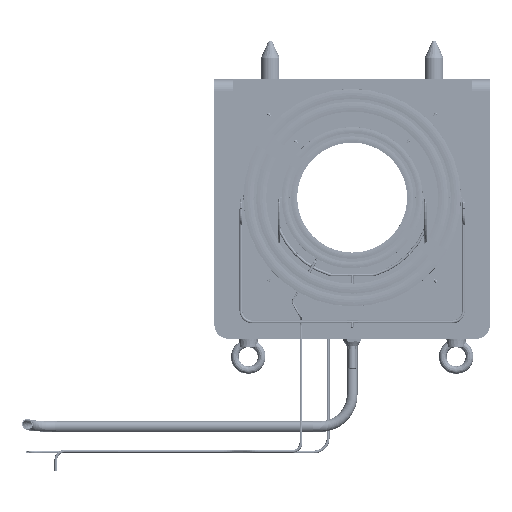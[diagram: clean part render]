
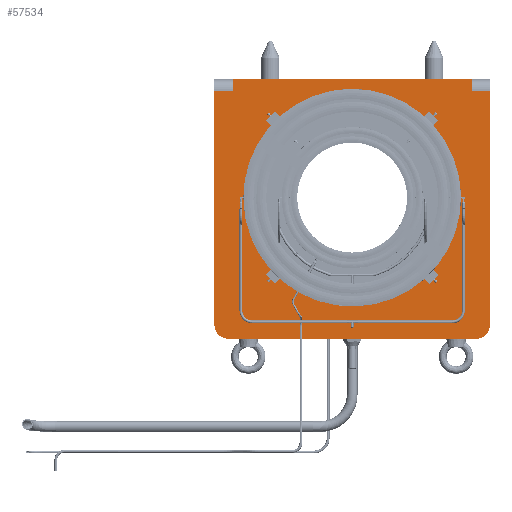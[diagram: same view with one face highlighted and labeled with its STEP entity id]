
A CAD part, front view. The second image highlights one B-rep face of the part: STEP entity #57534.
In plain terms, the highlighted planar face has unit normal (0, -1, 0) as drawn and (0, 0, 1) by its records, which use the part's own axes.
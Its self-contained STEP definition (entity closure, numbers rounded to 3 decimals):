
#1348=FACE_BOUND('',#15951,.T.);
#1711=PLANE('',#66789);
#8918=CIRCLE('',#66790,50.);
#8919=CIRCLE('',#66791,50.);
#8920=CIRCLE('',#66792,385.);
#12298=FACE_OUTER_BOUND('',#15950,.T.);
#15950=EDGE_LOOP('',(#53202,#53203,#53204,#53205,#53206,#53207,#53208,#53209,
#53210,#53211));
#15951=EDGE_LOOP('',(#53212));
#19274=LINE('',#107724,#22481);
#19276=LINE('',#107730,#22483);
#19280=LINE('',#107742,#22487);
#19281=LINE('',#107746,#22488);
#19282=LINE('',#107750,#22489);
#19283=LINE('',#107752,#22490);
#19284=LINE('',#107754,#22491);
#19285=LINE('',#107755,#22492);
#22481=VECTOR('',#86661,10.);
#22483=VECTOR('',#86667,10.);
#22487=VECTOR('',#86681,10.);
#22488=VECTOR('',#86684,10.);
#22489=VECTOR('',#86687,10.);
#22490=VECTOR('',#86688,10.);
#22491=VECTOR('',#86689,10.);
#22492=VECTOR('',#86690,10.);
#28092=VERTEX_POINT('',#107720);
#28094=VERTEX_POINT('',#107723);
#28096=VERTEX_POINT('',#107729);
#28099=VERTEX_POINT('',#107741);
#28100=VERTEX_POINT('',#107743);
#28101=VERTEX_POINT('',#107745);
#28102=VERTEX_POINT('',#107747);
#28103=VERTEX_POINT('',#107749);
#28104=VERTEX_POINT('',#107751);
#28105=VERTEX_POINT('',#107753);
#28106=VERTEX_POINT('',#107756);
#36505=EDGE_CURVE('',#28092,#28094,#19274,.T.);
#36508=EDGE_CURVE('',#28096,#28094,#19276,.T.);
#36514=EDGE_CURVE('',#28092,#28099,#19280,.F.);
#36515=EDGE_CURVE('',#28100,#28099,#8918,.T.);
#36516=EDGE_CURVE('',#28100,#28101,#19281,.T.);
#36517=EDGE_CURVE('',#28102,#28101,#8919,.T.);
#36518=EDGE_CURVE('',#28102,#28103,#19282,.T.);
#36519=EDGE_CURVE('',#28104,#28103,#19283,.T.);
#36520=EDGE_CURVE('',#28104,#28105,#19284,.T.);
#36521=EDGE_CURVE('',#28105,#28096,#19285,.T.);
#36522=EDGE_CURVE('',#28106,#28106,#8920,.T.);
#53202=ORIENTED_EDGE('',*,*,#36508,.T.);
#53203=ORIENTED_EDGE('',*,*,#36505,.F.);
#53204=ORIENTED_EDGE('',*,*,#36514,.T.);
#53205=ORIENTED_EDGE('',*,*,#36515,.F.);
#53206=ORIENTED_EDGE('',*,*,#36516,.T.);
#53207=ORIENTED_EDGE('',*,*,#36517,.F.);
#53208=ORIENTED_EDGE('',*,*,#36518,.T.);
#53209=ORIENTED_EDGE('',*,*,#36519,.F.);
#53210=ORIENTED_EDGE('',*,*,#36520,.T.);
#53211=ORIENTED_EDGE('',*,*,#36521,.T.);
#53212=ORIENTED_EDGE('',*,*,#36522,.T.);
#57534=ADVANCED_FACE('',(#12298,#1348),#1711,.T.);
#66789=AXIS2_PLACEMENT_3D('',#107740,#86679,#86680);
#66790=AXIS2_PLACEMENT_3D('',#107744,#86682,#86683);
#66791=AXIS2_PLACEMENT_3D('',#107748,#86685,#86686);
#66792=AXIS2_PLACEMENT_3D('',#107757,#86691,#86692);
#86661=DIRECTION('',(-1.,0.,0.));
#86667=DIRECTION('',(0.,1.,0.));
#86679=DIRECTION('center_axis',(0.,0.,1.));
#86680=DIRECTION('ref_axis',(1.,0.,0.));
#86681=DIRECTION('',(0.,-1.,0.));
#86682=DIRECTION('center_axis',(0.,0.,-1.));
#86683=DIRECTION('ref_axis',(0.707,0.707,0.));
#86684=DIRECTION('',(-1.,0.,0.));
#86685=DIRECTION('center_axis',(0.,0.,-1.));
#86686=DIRECTION('ref_axis',(-0.707,0.707,0.));
#86687=DIRECTION('',(0.,-1.,0.));
#86688=DIRECTION('',(-1.,0.,0.));
#86689=DIRECTION('',(0.,-1.,0.));
#86690=DIRECTION('',(1.,0.,0.));
#86691=DIRECTION('center_axis',(0.,0.,-1.));
#86692=DIRECTION('ref_axis',(-1.,0.,0.));
#107720=CARTESIAN_POINT('',(488.,-378.,50.));
#107723=CARTESIAN_POINT('',(423.,-378.,50.));
#107724=CARTESIAN_POINT('',(488.,-378.,50.));
#107729=CARTESIAN_POINT('',(423.,-420.,50.));
#107730=CARTESIAN_POINT('',(423.,-402.,50.));
#107740=CARTESIAN_POINT('Origin',(490.5,-405.,50.));
#107741=CARTESIAN_POINT('',(488.,450.,50.));
#107742=CARTESIAN_POINT('',(488.,-412.5,50.));
#107743=CARTESIAN_POINT('',(438.,500.,50.));
#107744=CARTESIAN_POINT('Origin',(438.,450.,50.));
#107745=CARTESIAN_POINT('',(-438.,500.,50.));
#107746=CARTESIAN_POINT('',(488.,500.,50.));
#107747=CARTESIAN_POINT('',(-488.,450.,50.));
#107748=CARTESIAN_POINT('Origin',(-438.,450.,50.));
#107749=CARTESIAN_POINT('',(-488.,-378.,50.));
#107750=CARTESIAN_POINT('',(-488.,500.,50.));
#107751=CARTESIAN_POINT('',(-423.,-378.,50.));
#107752=CARTESIAN_POINT('',(-488.,-378.,50.));
#107753=CARTESIAN_POINT('',(-423.,-420.,50.));
#107754=CARTESIAN_POINT('',(-423.,-402.,50.));
#107755=CARTESIAN_POINT('',(351.5,-420.,50.));
#107756=CARTESIAN_POINT('',(385.,0.,50.));
#107757=CARTESIAN_POINT('Origin',(0.,0.,50.));
